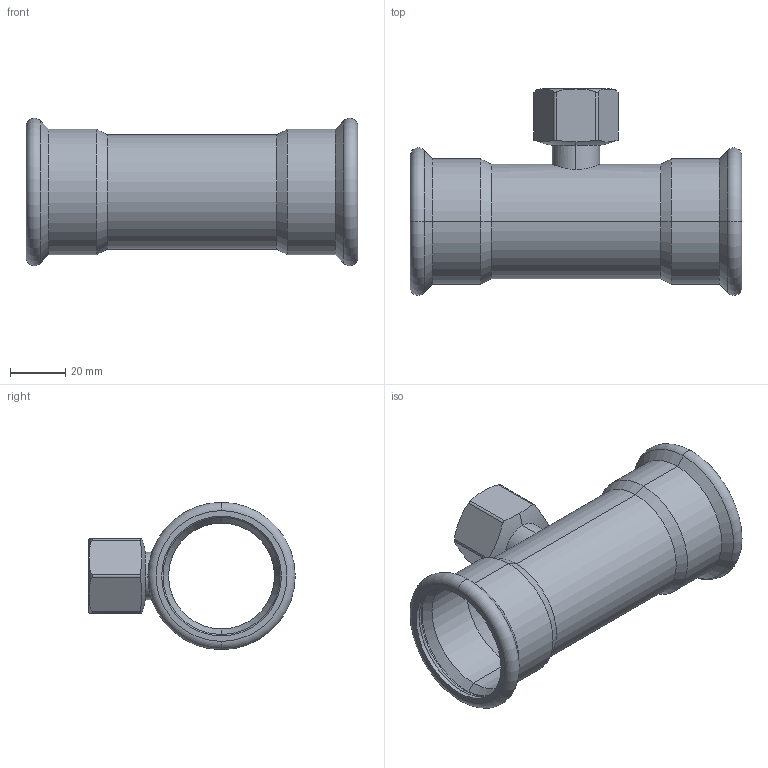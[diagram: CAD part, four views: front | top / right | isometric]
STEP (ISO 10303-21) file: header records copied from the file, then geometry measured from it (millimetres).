
FILE_DESCRIPTION (( 'STEP AP214' ), '1' );
FILE_NAME ('T42200F.STEP', '2025-08-17T14:00:48', ( '' ), ( '' ), 'SwSTEP 2.0', 'SolidWorks 2020', '' );
FILE_SCHEMA (( 'AUTOMOTIVE_DESIGN' ));
Length unit declared in the file: millimetre
Products named in the file (1): T42200F
Bounding box: 120 x 74.65 x 53.29 mm (x, y, z)
Volume: 32491 mm3; surface area: 41874.9 mm2
Topology: 3 solids, 3 shells, 104 faces, 249 edges, 150 vertices
Faces by surface type: cylinder 51, torus 20, cone 18, plane 12, bspline 3
Entity records: 6349 total; most frequent: CARTESIAN_POINT 2898, ORIENTED_EDGE 498, DIRECTION 454, EDGE_CURVE 249, AXIS2_PLACEMENT_3D 188, VERTEX_POINT 150, EDGE_LOOP 111, UNCERTAINTY_MEASURE_WITH_UNIT 109
